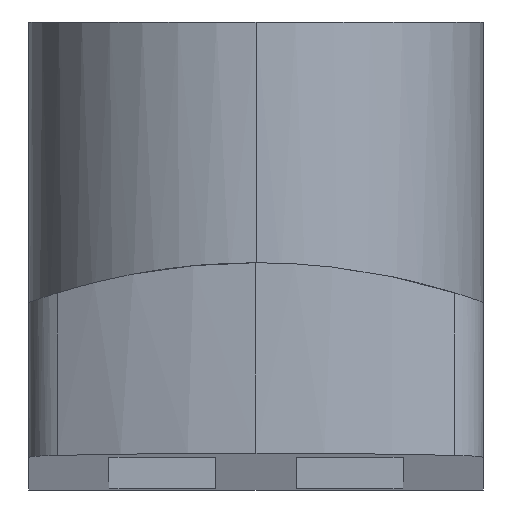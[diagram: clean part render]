
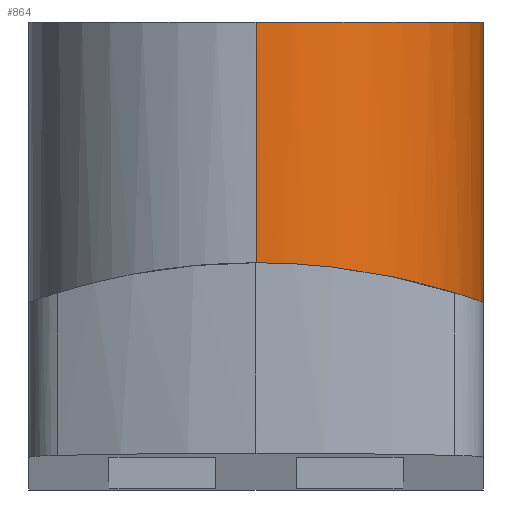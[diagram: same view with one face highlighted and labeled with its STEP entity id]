
A CAD part, left-side view. The second image highlights one B-rep face of the part: STEP entity #864.
In plain terms, the highlighted cylindrical face has radius 8.5 mm (diameter 17 mm), a partial arc.
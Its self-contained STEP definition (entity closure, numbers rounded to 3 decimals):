
#5 = ORIENTED_EDGE ( 'NONE', *, *, #926, .F. ) ;
#28 = AXIS2_PLACEMENT_3D ( 'NONE', #628, #1083, #680 ) ;
#36 = CARTESIAN_POINT ( 'NONE',  ( -8.5, -0.285, 8. ) ) ;
#85 = CARTESIAN_POINT ( 'NONE',  ( -8.5, 0., 17.5 ) ) ;
#105 = VERTEX_POINT ( 'NONE', #745 ) ;
#130 = DIRECTION ( 'NONE',  ( -1., 0., 0. ) ) ;
#147 = LINE ( 'NONE', #880, #1310 ) ;
#177 = CARTESIAN_POINT ( 'NONE',  ( 8.5, 0., 1.487 ) ) ;
#192 =( BOUNDED_CURVE ( )  B_SPLINE_CURVE ( 3, ( #295, #212, #315, #326 ),
 .UNSPECIFIED., .F., .T. ) 
 B_SPLINE_CURVE_WITH_KNOTS ( ( 4, 4 ),
 ( 1.571, 3.142 ),
 .UNSPECIFIED. ) 
 CURVE ( )  GEOMETRIC_REPRESENTATION_ITEM ( )  RATIONAL_B_SPLINE_CURVE ( ( 1., 0.805, 0.805, 1. ) ) 
 REPRESENTATION_ITEM ( '' )  );
#194 = CARTESIAN_POINT ( 'NONE',  ( -8.5, 0., 8. ) ) ;
#207 = DIRECTION ( 'NONE',  ( 0., 0., -1. ) ) ;
#212 = CARTESIAN_POINT ( 'NONE',  ( 4.979, -8.5, 1.179 ) ) ;
#229 = CARTESIAN_POINT ( 'NONE',  ( 8.5, 0., 8.5 ) ) ;
#295 = CARTESIAN_POINT ( 'NONE',  ( 0., -8.5, 0.744 ) ) ;
#308 = VECTOR ( 'NONE', #207, 1000. ) ;
#315 = CARTESIAN_POINT ( 'NONE',  ( 8.5, -4.979, 1.487 ) ) ;
#326 = CARTESIAN_POINT ( 'NONE',  ( 8.5, 0., 1.487 ) ) ;
#447 = VERTEX_POINT ( 'NONE', #177 ) ;
#451 = CARTESIAN_POINT ( 'NONE',  ( -6.763, -5.156, 6.796 ) ) ;
#492 = EDGE_CURVE ( 'NONE', #105, #1223, #147, .T. ) ;
#513 = EDGE_CURVE ( 'NONE', #897, #1596, #1528, .T. ) ;
#616 = EDGE_CURVE ( 'NONE', #897, #1655, #693, .T. ) ;
#627 = FACE_OUTER_BOUND ( 'NONE', #1460, .T. ) ;
#628 = CARTESIAN_POINT ( 'NONE',  ( 0., 0., 17.5 ) ) ;
#635 = CARTESIAN_POINT ( 'NONE',  ( 0., -8.5, 5.5 ) ) ;
#680 = DIRECTION ( 'NONE',  ( 1., 0., 0. ) ) ;
#689 = CARTESIAN_POINT ( 'NONE',  ( -0.573, -8.5, 5.5 ) ) ;
#693 = CIRCLE ( 'NONE', #28, 8.5 ) ;
#745 = CARTESIAN_POINT ( 'NONE',  ( 0., -8.5, 5.5 ) ) ;
#754 = ORIENTED_EDGE ( 'NONE', *, *, #1370, .T. ) ;
#778 = CARTESIAN_POINT ( 'NONE',  ( -8.5, 0., 8. ) ) ;
#809 = VECTOR ( 'NONE', #1231, 1000. ) ;
#864 = ADVANCED_FACE ( 'NONE', ( #627 ), #1604, .T. ) ;
#876 = CARTESIAN_POINT ( 'NONE',  ( -2.242, -8.218, 5.613 ) ) ;
#880 = CARTESIAN_POINT ( 'NONE',  ( 0., -8.5, 8.5 ) ) ;
#892 = CARTESIAN_POINT ( 'NONE',  ( -1.136, -8.443, 5.523 ) ) ;
#893 = ORIENTED_EDGE ( 'NONE', *, *, #513, .T. ) ;
#897 = VERTEX_POINT ( 'NONE', #85 ) ;
#906 = CARTESIAN_POINT ( 'NONE',  ( -5.003, -6.878, 6.145 ) ) ;
#924 = CARTESIAN_POINT ( 'NONE',  ( -3.822, -7.613, 5.855 ) ) ;
#926 = EDGE_CURVE ( 'NONE', #1655, #447, #1374, .T. ) ;
#969 = CARTESIAN_POINT ( 'NONE',  ( 0., -8.5, 0.744 ) ) ;
#987 = CARTESIAN_POINT ( 'NONE',  ( 8.5, 0., 17.5 ) ) ;
#995 = DIRECTION ( 'NONE',  ( 0., 0., -1. ) ) ;
#996 = AXIS2_PLACEMENT_3D ( 'NONE', #1734, #1718, #130 ) ;
#997 = CARTESIAN_POINT ( 'NONE',  ( -4.311, -7.347, 5.961 ) ) ;
#1083 = DIRECTION ( 'NONE',  ( 0., 0., 1. ) ) ;
#1089 = ORIENTED_EDGE ( 'NONE', *, *, #1091, .F. ) ;
#1091 = EDGE_CURVE ( 'NONE', #105, #1596, #1320, .T. ) ;
#1118 = CARTESIAN_POINT ( 'NONE',  ( -5.226, -6.71, 6.21 ) ) ;
#1182 = CARTESIAN_POINT ( 'NONE',  ( -5.65, -6.357, 6.346 ) ) ;
#1223 = VERTEX_POINT ( 'NONE', #969 ) ;
#1231 = DIRECTION ( 'NONE',  ( 0., 0., -1. ) ) ;
#1259 = CARTESIAN_POINT ( 'NONE',  ( -2.79, -8.049, 5.681 ) ) ;
#1275 = CARTESIAN_POINT ( 'NONE',  ( -6.235, -5.783, 6.564 ) ) ;
#1296 = CARTESIAN_POINT ( 'NONE',  ( -6.418, -5.58, 6.64 ) ) ;
#1302 = CARTESIAN_POINT ( 'NONE',  ( -6.927, -4.934, 6.876 ) ) ;
#1305 = CARTESIAN_POINT ( 'NONE',  ( -8.5, 0., 8.5 ) ) ;
#1310 = VECTOR ( 'NONE', #995, 1000. ) ;
#1320 = B_SPLINE_CURVE_WITH_KNOTS ( 'NONE', 3,
 ( #635, #689, #892, #876, #1259, #924, #997, #906, #1118, #1182, #1322, #1275, #1296, #451, #1302, #1523, #1470, #1608, #1686, #1623, #1692, #1611, #36, #194 ),
 .UNSPECIFIED., .F., .F.,
 ( 4, 2, 2, 2, 2, 2, 2, 2, 2, 2, 2, 4 ),
 ( 0., 0.002, 0.003, 0.005, 0.006, 0.007, 0.008, 0.008, 0.01, 0.012, 0.013, 0.014 ),
 .UNSPECIFIED. ) ;
#1322 = CARTESIAN_POINT ( 'NONE',  ( -5.851, -6.171, 6.417 ) ) ;
#1370 = EDGE_CURVE ( 'NONE', #1223, #447, #192, .T. ) ;
#1374 = LINE ( 'NONE', #229, #308 ) ;
#1460 = EDGE_LOOP ( 'NONE', ( #5, #1562, #893, #1089, #1730, #754 ) ) ;
#1470 = CARTESIAN_POINT ( 'NONE',  ( -7.636, -3.774, 7.278 ) ) ;
#1523 = CARTESIAN_POINT ( 'NONE',  ( -7.381, -4.252, 7.117 ) ) ;
#1528 = LINE ( 'NONE', #1305, #809 ) ;
#1562 = ORIENTED_EDGE ( 'NONE', *, *, #616, .F. ) ;
#1596 = VERTEX_POINT ( 'NONE', #778 ) ;
#1604 = CYLINDRICAL_SURFACE ( 'NONE', #996, 8.5 ) ;
#1608 = CARTESIAN_POINT ( 'NONE',  ( -8.056, -2.767, 7.58 ) ) ;
#1611 = CARTESIAN_POINT ( 'NONE',  ( -8.485, -0.573, 7.984 ) ) ;
#1623 = CARTESIAN_POINT ( 'NONE',  ( -8.386, -1.412, 7.881 ) ) ;
#1655 = VERTEX_POINT ( 'NONE', #987 ) ;
#1686 = CARTESIAN_POINT ( 'NONE',  ( -8.221, -2.232, 7.723 ) ) ;
#1692 = CARTESIAN_POINT ( 'NONE',  ( -8.429, -1.135, 7.924 ) ) ;
#1718 = DIRECTION ( 'NONE',  ( 0., 0., -1. ) ) ;
#1730 = ORIENTED_EDGE ( 'NONE', *, *, #492, .T. ) ;
#1734 = CARTESIAN_POINT ( 'NONE',  ( 0., 0., 8.5 ) ) ;
